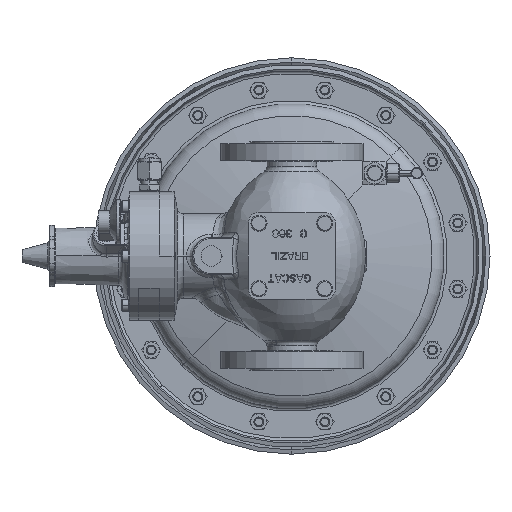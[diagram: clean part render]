
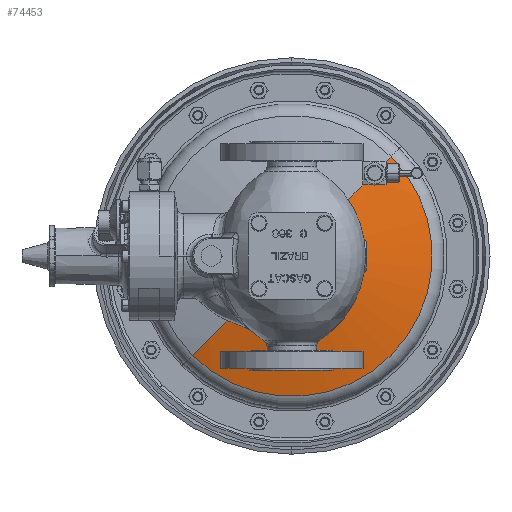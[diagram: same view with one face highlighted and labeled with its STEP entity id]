
A CAD part, front view. The second image highlights one B-rep face of the part: STEP entity #74453.
In plain terms, the highlighted spherical face has radius 403.5 mm.
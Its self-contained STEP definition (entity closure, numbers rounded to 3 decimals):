
#13094=CARTESIAN_POINT('',(60.069,109.578,60.069));
#13161=CARTESIAN_POINT('',(73.574,114.18,73.574));
#14104=CARTESIAN_POINT('',(0.,116.765,0.));
#14105=DIRECTION('',(0.,-1.,0.));
#14106=DIRECTION('',(-0.707,0.,-0.707));
#14107=AXIS2_PLACEMENT_3D('',#14104,#14105,#14106);
#14119=CARTESIAN_POINT('',(73.574,114.18,73.574));
#14120=CARTESIAN_POINT('',(73.684,114.18,73.465));
#14121=CARTESIAN_POINT('',(73.899,114.179,73.239));
#14122=CARTESIAN_POINT('',(74.204,114.17,72.886));
#14123=CARTESIAN_POINT('',(74.491,114.156,72.518));
#14124=CARTESIAN_POINT('',(74.761,114.137,72.136));
#14125=CARTESIAN_POINT('',(75.011,114.112,71.741));
#14126=CARTESIAN_POINT('',(75.242,114.082,71.335));
#14127=CARTESIAN_POINT('',(75.453,114.047,70.916));
#14128=CARTESIAN_POINT('',(75.644,114.006,70.488));
#14129=CARTESIAN_POINT('',(75.813,113.96,70.05));
#14130=CARTESIAN_POINT('',(75.961,113.909,69.604));
#14131=CARTESIAN_POINT('',(76.087,113.853,69.15));
#14132=CARTESIAN_POINT('',(76.191,113.792,68.69));
#14133=CARTESIAN_POINT('',(76.272,113.726,68.225));
#14134=CARTESIAN_POINT('',(76.33,113.656,67.755));
#14135=CARTESIAN_POINT('',(76.364,113.581,67.283));
#14136=CARTESIAN_POINT('',(76.376,113.501,66.808));
#14137=CARTESIAN_POINT('',(76.363,113.418,66.332));
#14138=CARTESIAN_POINT('',(76.327,113.33,65.858));
#14139=CARTESIAN_POINT('',(76.267,113.239,65.384));
#14140=CARTESIAN_POINT('',(76.183,113.144,64.913));
#14141=CARTESIAN_POINT('',(76.076,113.046,64.447));
#14142=CARTESIAN_POINT('',(75.945,112.945,63.985));
#14143=CARTESIAN_POINT('',(75.791,112.841,63.531));
#14144=CARTESIAN_POINT('',(75.614,112.734,63.083));
#14145=CARTESIAN_POINT('',(75.414,112.626,62.645));
#14146=CARTESIAN_POINT('',(75.193,112.515,62.217));
#14147=CARTESIAN_POINT('',(74.95,112.402,61.8));
#14148=CARTESIAN_POINT('',(74.686,112.288,61.396));
#14149=CARTESIAN_POINT('',(74.402,112.173,61.006));
#14150=CARTESIAN_POINT('',(74.098,112.057,60.63));
#14151=CARTESIAN_POINT('',(73.775,111.941,60.269));
#14152=CARTESIAN_POINT('',(73.434,111.824,59.926));
#14153=CARTESIAN_POINT('',(73.078,111.708,59.601));
#14154=CARTESIAN_POINT('',(72.708,111.593,59.296));
#14155=CARTESIAN_POINT('',(72.326,111.48,59.013));
#14156=CARTESIAN_POINT('',(71.935,111.369,58.751));
#14157=CARTESIAN_POINT('',(71.535,111.26,58.512));
#14158=CARTESIAN_POINT('',(71.13,111.154,58.295));
#14159=CARTESIAN_POINT('',(70.719,111.051,58.099));
#14160=CARTESIAN_POINT('',(70.303,110.951,57.925));
#14161=CARTESIAN_POINT('',(69.882,110.853,57.772));
#14162=CARTESIAN_POINT('',(69.459,110.759,57.639));
#14163=CARTESIAN_POINT('',(69.033,110.667,57.528));
#14164=CARTESIAN_POINT('',(68.604,110.579,57.436));
#14165=CARTESIAN_POINT('',(68.174,110.494,57.364));
#14166=CARTESIAN_POINT('',(67.742,110.412,57.313));
#14167=CARTESIAN_POINT('',(67.31,110.333,57.281));
#14168=CARTESIAN_POINT('',(66.877,110.257,57.268));
#14169=CARTESIAN_POINT('',(66.444,110.185,57.276));
#14170=CARTESIAN_POINT('',(66.011,110.116,57.303));
#14171=CARTESIAN_POINT('',(65.58,110.051,57.349));
#14172=CARTESIAN_POINT('',(65.149,109.989,57.416));
#14173=CARTESIAN_POINT('',(64.721,109.931,57.502));
#14174=CARTESIAN_POINT('',(64.296,109.877,57.608));
#14175=CARTESIAN_POINT('',(63.874,109.827,57.734));
#14176=CARTESIAN_POINT('',(63.457,109.781,57.88));
#14177=CARTESIAN_POINT('',(63.044,109.739,58.047));
#14178=CARTESIAN_POINT('',(62.638,109.702,58.233));
#14179=CARTESIAN_POINT('',(62.24,109.669,58.439));
#14180=CARTESIAN_POINT('',(61.849,109.641,58.664));
#14181=CARTESIAN_POINT('',(61.469,109.618,58.908));
#14182=CARTESIAN_POINT('',(61.099,109.6,59.172));
#14183=CARTESIAN_POINT('',(60.741,109.587,59.453));
#14184=CARTESIAN_POINT('',(60.396,109.579,59.751));
#14185=CARTESIAN_POINT('',(60.176,109.578,59.961));
#14186=CARTESIAN_POINT('',(60.069,109.578,60.069));
#14188=CARTESIAN_POINT('',(0.,504.034,0.));
#14189=DIRECTION('',(-0.707,0.,0.707));
#14190=DIRECTION('',(0.182,-0.966,0.182));
#14191=AXIS2_PLACEMENT_3D('',#14188,#14189,#14190);
#14193=CARTESIAN_POINT('',(0.,504.034,0.));
#14194=DIRECTION('',(0.707,0.,-0.707));
#14195=DIRECTION('',(-0.101,-0.99,-0.101));
#14196=AXIS2_PLACEMENT_3D('',#14193,#14194,#14195);
#14198=CARTESIAN_POINT('',(0.,104.697,0.));
#14199=DIRECTION('',(0.,1.,0.));
#14200=DIRECTION('',(0.707,0.,0.707));
#14201=AXIS2_PLACEMENT_3D('',#14198,#14199,#14200);
#14203=CARTESIAN_POINT('',(0.,504.034,0.));
#14204=DIRECTION('',(-0.707,0.,0.707));
#14205=DIRECTION('',(0.101,-0.99,0.101));
#14206=AXIS2_PLACEMENT_3D('',#14203,#14204,#14205);
#51388=CARTESIAN_POINT('',(-80.108,116.765,
-80.108));
#51390=VERTEX_POINT('',#51388);
#51396=CARTESIAN_POINT('',(80.108,116.765,80.108));
#51398=VERTEX_POINT('',#51396);
#51524=CARTESIAN_POINT('',(-40.88,104.697,
-40.88));
#51525=CARTESIAN_POINT('',(40.88,104.697,40.88));
#51526=VERTEX_POINT('',#51524);
#51527=VERTEX_POINT('',#51525);
#51540=VERTEX_POINT('',#13094);
#51541=VERTEX_POINT('',#13161);
#74439=CARTESIAN_POINT('',(0.,504.034,0.));
#74440=DIRECTION('',(0.,1.,0.));
#74441=DIRECTION('',(-0.707,0.,-0.707));
#74442=AXIS2_PLACEMENT_3D('',#74439,#74440,#74441);
#74443=SPHERICAL_SURFACE('',#74442,403.5);
#74444=ORIENTED_EDGE('',*,*,#73684,.F.);
#74445=ORIENTED_EDGE('',*,*,#73655,.T.);
#74446=ORIENTED_EDGE('',*,*,#74419,.F.);
#74447=ORIENTED_EDGE('',*,*,#73651,.F.);
#74449=ORIENTED_EDGE('',*,*,#74448,.F.);
#74450=ORIENTED_EDGE('',*,*,#73648,.T.);
#74451=EDGE_LOOP('',(#74444,#74445,#74446,#74447,#74449,#74450));
#74452=FACE_OUTER_BOUND('',#74451,.F.);
#74453=ADVANCED_FACE('',(#74452),#74443,.T.);
#14108=CIRCLE('',#14107,113.29);
#14187=B_SPLINE_CURVE_WITH_KNOTS('',3,(#14119,#14120,#14121,#14122,#14123,
#14124,#14125,#14126,#14127,#14128,#14129,#14130,#14131,#14132,#14133,#14134,
#14135,#14136,#14137,#14138,#14139,#14140,#14141,#14142,#14143,#14144,#14145,
#14146,#14147,#14148,#14149,#14150,#14151,#14152,#14153,#14154,#14155,#14156,
#14157,#14158,#14159,#14160,#14161,#14162,#14163,#14164,#14165,#14166,#14167,
#14168,#14169,#14170,#14171,#14172,#14173,#14174,#14175,#14176,#14177,#14178,
#14179,#14180,#14181,#14182,#14183,#14184,#14185,#14186),.UNSPECIFIED.,.F.,.F.,(
4,1,1,1,1,1,1,1,1,1,1,1,1,1,1,1,1,1,1,1,1,1,1,1,1,1,1,1,1,1,1,1,1,1,1,1,1,1,1,1,
1,1,1,1,1,1,1,1,1,1,1,1,1,1,1,1,1,1,1,1,1,1,1,1,1,4),(0.,0.015,
0.031,0.046,0.062,0.077,
0.092,0.108,0.123,0.138,
0.154,0.169,0.185,0.2,0.215,
0.231,0.246,0.262,0.277,
0.292,0.308,0.323,0.338,
0.354,0.369,0.385,0.4,0.415,
0.431,0.446,0.462,0.477,
0.492,0.508,0.523,0.538,
0.554,0.569,0.585,0.6,0.615,
0.631,0.646,0.662,0.677,
0.692,0.708,0.723,0.738,
0.754,0.769,0.785,0.8,0.815,
0.831,0.846,0.862,0.877,
0.892,0.908,0.923,0.938,
0.954,0.969,0.985,1.),.UNSPECIFIED.);
#14192=CIRCLE('',#14191,403.5);
#14197=CIRCLE('',#14196,403.5);
#14202=CIRCLE('',#14201,57.814);
#14207=CIRCLE('',#14206,403.5);
#73648=EDGE_CURVE('',#51527,#51540,#14207,.T.);
#73651=EDGE_CURVE('',#51526,#51390,#14197,.T.);
#73655=EDGE_CURVE('',#51541,#51398,#14192,.T.);
#73684=EDGE_CURVE('',#51541,#51540,#14187,.T.);
#74419=EDGE_CURVE('',#51390,#51398,#14108,.T.);
#74448=EDGE_CURVE('',#51527,#51526,#14202,.T.);
